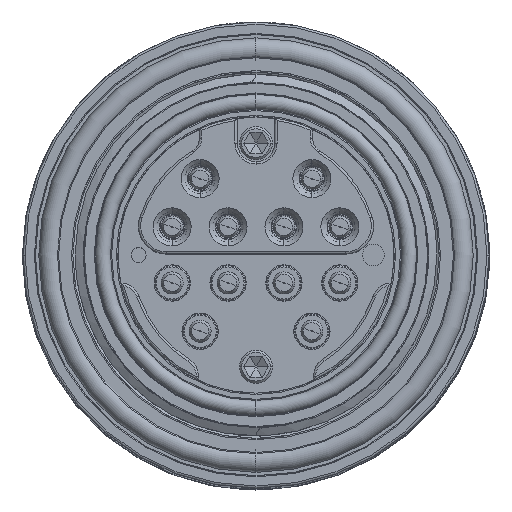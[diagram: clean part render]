
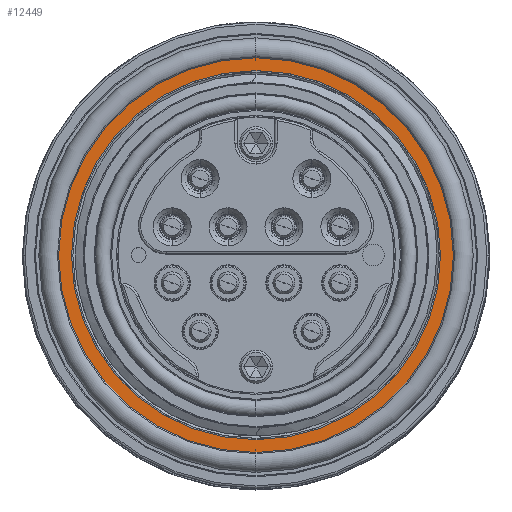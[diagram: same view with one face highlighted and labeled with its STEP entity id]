
A CAD part, top view. The second image highlights one B-rep face of the part: STEP entity #12449.
In plain terms, the highlighted planar face has unit normal (0, 0, 1).
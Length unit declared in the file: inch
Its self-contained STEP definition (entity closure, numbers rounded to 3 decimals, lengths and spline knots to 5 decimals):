
#236 = EDGE_CURVE ( 'NONE', #18083, #20747, #1203, .T. ) ;
#341 = CARTESIAN_POINT ( 'NONE',  ( 0.825, 0., -0.515 ) ) ;
#414 = AXIS2_PLACEMENT_3D ( 'NONE', #21941, #4673, #20054 ) ;
#1203 = CIRCLE ( 'NONE', #414, 0.825 ) ;
#2290 = DIRECTION ( 'NONE',  ( 0., 0., -1. ) ) ;
#2476 = EDGE_CURVE ( 'NONE', #20747, #18083, #4715, .T. ) ;
#2897 = DIRECTION ( 'NONE',  ( 0., 0., 1. ) ) ;
#3299 = DIRECTION ( 'NONE',  ( 0., 0., 1. ) ) ;
#3780 = EDGE_LOOP ( 'NONE', ( #20512, #21586 ) ) ;
#4094 = DIRECTION ( 'NONE',  ( 0., 0., 1. ) ) ;
#4167 = PLANE ( 'NONE',  #8394 ) ;
#4673 = DIRECTION ( 'NONE',  ( 0., 0., 1. ) ) ;
#4715 = CIRCLE ( 'NONE', #22025, 0.825 ) ;
#6858 = EDGE_LOOP ( 'NONE', ( #12621, #20368 ) ) ;
#8080 = DIRECTION ( 'NONE',  ( 1., 0., 0. ) ) ;
#8394 = AXIS2_PLACEMENT_3D ( 'NONE', #11879, #2290, #23211 ) ;
#9780 = CARTESIAN_POINT ( 'NONE',  ( 0., 0., -0.515 ) ) ;
#10977 = AXIS2_PLACEMENT_3D ( 'NONE', #20169, #2897, #8080 ) ;
#11010 = DIRECTION ( 'NONE',  ( 1., 0., 0. ) ) ;
#11879 = CARTESIAN_POINT ( 'NONE',  ( 0., 0.8825, -0.515 ) ) ;
#12449 = ADVANCED_FACE ( 'NONE', ( #21443, #21192 ), #4167, .F. ) ;
#12621 = ORIENTED_EDGE ( 'NONE', *, *, #236, .F. ) ;
#14111 = CARTESIAN_POINT ( 'NONE',  ( -0.8825, 0., -0.515 ) ) ;
#14341 = CARTESIAN_POINT ( 'NONE',  ( -0.825, 0., -0.515 ) ) ;
#14741 = AXIS2_PLACEMENT_3D ( 'NONE', #9780, #4094, #17705 ) ;
#15197 = EDGE_CURVE ( 'NONE', #19667, #23096, #21823, .T. ) ;
#15931 = CIRCLE ( 'NONE', #14741, 0.8825 ) ;
#15966 = CARTESIAN_POINT ( 'NONE',  ( 0.8825, 0., -0.515 ) ) ;
#17705 = DIRECTION ( 'NONE',  ( 1., 0., 0. ) ) ;
#18083 = VERTEX_POINT ( 'NONE', #341 ) ;
#19667 = VERTEX_POINT ( 'NONE', #15966 ) ;
#19955 = EDGE_CURVE ( 'NONE', #23096, #19667, #15931, .T. ) ;
#20054 = DIRECTION ( 'NONE',  ( 1., 0., 0. ) ) ;
#20169 = CARTESIAN_POINT ( 'NONE',  ( 0., 0., -0.515 ) ) ;
#20368 = ORIENTED_EDGE ( 'NONE', *, *, #2476, .F. ) ;
#20512 = ORIENTED_EDGE ( 'NONE', *, *, #15197, .T. ) ;
#20747 = VERTEX_POINT ( 'NONE', #14341 ) ;
#21192 = FACE_OUTER_BOUND ( 'NONE', #3780, .T. ) ;
#21443 = FACE_BOUND ( 'NONE', #6858, .T. ) ;
#21586 = ORIENTED_EDGE ( 'NONE', *, *, #19955, .T. ) ;
#21823 = CIRCLE ( 'NONE', #10977, 0.8825 ) ;
#21941 = CARTESIAN_POINT ( 'NONE',  ( 0., 0., -0.515 ) ) ;
#22025 = AXIS2_PLACEMENT_3D ( 'NONE', #22462, #3299, #11010 ) ;
#22462 = CARTESIAN_POINT ( 'NONE',  ( 0., 0., -0.515 ) ) ;
#23096 = VERTEX_POINT ( 'NONE', #14111 ) ;
#23211 = DIRECTION ( 'NONE',  ( -1., 0., 0. ) ) ;
